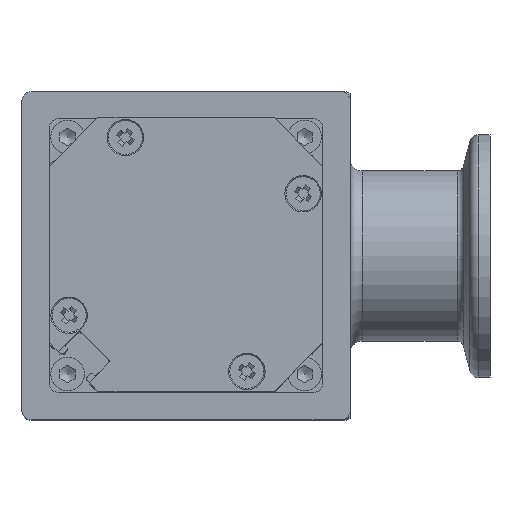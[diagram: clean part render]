
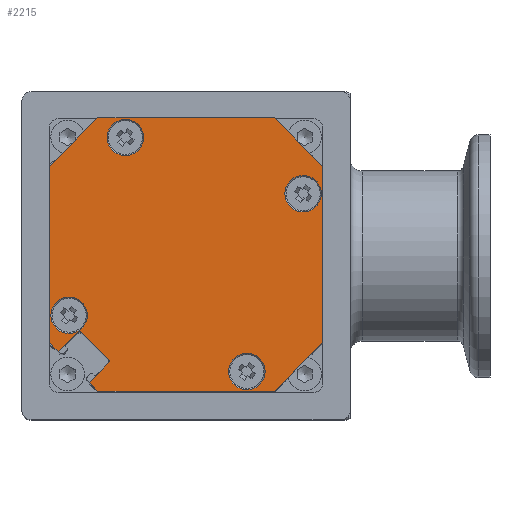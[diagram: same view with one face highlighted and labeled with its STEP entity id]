
A CAD part, top view. The second image highlights one B-rep face of the part: STEP entity #2215.
In plain terms, the highlighted planar face has unit normal (0, 0, 1).
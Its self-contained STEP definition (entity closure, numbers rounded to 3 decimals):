
#1521=PLANE('',#9329);
#2215=ADVANCED_FACE('',(#3889,#3890,#3891,#3892,#3893),#1521,.F.);
#2853=LINE('',#14635,#3361);
#2859=LINE('',#14649,#3367);
#2861=LINE('',#14661,#3369);
#2862=LINE('',#14663,#3370);
#2863=LINE('',#14665,#3371);
#2864=LINE('',#14667,#3372);
#2865=LINE('',#14669,#3373);
#2866=LINE('',#14671,#3374);
#2867=LINE('',#14673,#3375);
#2868=LINE('',#14675,#3376);
#2869=LINE('',#14676,#3377);
#2870=LINE('',#14680,#3378);
#3361=VECTOR('',#11101,1.);
#3367=VECTOR('',#11109,1.);
#3369=VECTOR('',#11121,1.);
#3370=VECTOR('',#11122,1.);
#3371=VECTOR('',#11123,1.);
#3372=VECTOR('',#11124,1.);
#3373=VECTOR('',#11125,1.);
#3374=VECTOR('',#11126,1.);
#3375=VECTOR('',#11127,1.);
#3376=VECTOR('',#11128,1.);
#3377=VECTOR('',#11129,1.);
#3378=VECTOR('',#11132,1.);
#3889=FACE_BOUND('',#4502,.T.);
#3890=FACE_BOUND('',#4503,.T.);
#3891=FACE_BOUND('',#4504,.T.);
#3892=FACE_BOUND('',#4505,.T.);
#3893=FACE_BOUND('',#4506,.T.);
#4502=EDGE_LOOP('',(#6284));
#4503=EDGE_LOOP('',(#6285));
#4504=EDGE_LOOP('',(#6286));
#4505=EDGE_LOOP('',(#6287));
#4506=EDGE_LOOP('',(#6288,#6289,#6290,#6291,#6292,#6293,#6294,#6295,#6296,
#6297,#6298,#6299,#6300,#6301));
#6284=ORIENTED_EDGE('',*,*,#8216,.T.);
#6285=ORIENTED_EDGE('',*,*,#8217,.T.);
#6286=ORIENTED_EDGE('',*,*,#8218,.T.);
#6287=ORIENTED_EDGE('',*,*,#8219,.T.);
#6288=ORIENTED_EDGE('',*,*,#8220,.T.);
#6289=ORIENTED_EDGE('',*,*,#8208,.F.);
#6290=ORIENTED_EDGE('',*,*,#8221,.F.);
#6291=ORIENTED_EDGE('',*,*,#8222,.F.);
#6292=ORIENTED_EDGE('',*,*,#8223,.F.);
#6293=ORIENTED_EDGE('',*,*,#8224,.F.);
#6294=ORIENTED_EDGE('',*,*,#8225,.F.);
#6295=ORIENTED_EDGE('',*,*,#8226,.F.);
#6296=ORIENTED_EDGE('',*,*,#8227,.F.);
#6297=ORIENTED_EDGE('',*,*,#8214,.F.);
#6298=ORIENTED_EDGE('',*,*,#8228,.T.);
#6299=ORIENTED_EDGE('',*,*,#8229,.T.);
#6300=ORIENTED_EDGE('',*,*,#8230,.T.);
#6301=ORIENTED_EDGE('',*,*,#8231,.T.);
#7253=VERTEX_POINT('',#14636);
#7254=VERTEX_POINT('',#14637);
#7259=VERTEX_POINT('',#14648);
#7260=VERTEX_POINT('',#14650);
#7261=VERTEX_POINT('',#14654);
#7262=VERTEX_POINT('',#14656);
#7263=VERTEX_POINT('',#14658);
#7264=VERTEX_POINT('',#14660);
#7265=VERTEX_POINT('',#14662);
#7266=VERTEX_POINT('',#14664);
#7267=VERTEX_POINT('',#14666);
#7268=VERTEX_POINT('',#14668);
#7269=VERTEX_POINT('',#14670);
#7270=VERTEX_POINT('',#14672);
#7271=VERTEX_POINT('',#14674);
#7272=VERTEX_POINT('',#14677);
#7273=VERTEX_POINT('',#14679);
#7274=VERTEX_POINT('',#14681);
#8208=EDGE_CURVE('',#7253,#7254,#2853,.T.);
#8214=EDGE_CURVE('',#7259,#7260,#2859,.T.);
#8216=EDGE_CURVE('',#7261,#7261,#8651,.T.);
#8217=EDGE_CURVE('',#7262,#7262,#8652,.T.);
#8218=EDGE_CURVE('',#7263,#7263,#8653,.T.);
#8219=EDGE_CURVE('',#7264,#7264,#8654,.T.);
#8220=EDGE_CURVE('',#7265,#7254,#2861,.T.);
#8221=EDGE_CURVE('',#7266,#7253,#2862,.T.);
#8222=EDGE_CURVE('',#7267,#7266,#2863,.T.);
#8223=EDGE_CURVE('',#7268,#7267,#2864,.T.);
#8224=EDGE_CURVE('',#7269,#7268,#2865,.T.);
#8225=EDGE_CURVE('',#7270,#7269,#2866,.T.);
#8226=EDGE_CURVE('',#7271,#7270,#2867,.T.);
#8227=EDGE_CURVE('',#7260,#7271,#2868,.T.);
#8228=EDGE_CURVE('',#7259,#7272,#2869,.T.);
#8229=EDGE_CURVE('',#7272,#7273,#8655,.T.);
#8230=EDGE_CURVE('',#7273,#7274,#2870,.T.);
#8231=EDGE_CURVE('',#7274,#7265,#8656,.T.);
#8651=CIRCLE('',#9323,3.);
#8652=CIRCLE('',#9324,3.);
#8653=CIRCLE('',#9325,3.);
#8654=CIRCLE('',#9326,3.);
#8655=CIRCLE('',#9327,0.4);
#8656=CIRCLE('',#9328,0.4);
#9323=AXIS2_PLACEMENT_3D('',#14653,#11113,#11114);
#9324=AXIS2_PLACEMENT_3D('',#14655,#11115,#11116);
#9325=AXIS2_PLACEMENT_3D('',#14657,#11117,#11118);
#9326=AXIS2_PLACEMENT_3D('',#14659,#11119,#11120);
#9327=AXIS2_PLACEMENT_3D('',#14678,#11130,#11131);
#9328=AXIS2_PLACEMENT_3D('',#14682,#11133,#11134);
#9329=AXIS2_PLACEMENT_3D('',#14683,#11135,#11136);
#11101=DIRECTION('',(0.707,-0.707,0.));
#11109=DIRECTION('',(0.707,-0.707,0.));
#11113=DIRECTION('',(0.,0.,-1.));
#11114=DIRECTION('',(-1.,0.,0.));
#11115=DIRECTION('',(0.,0.,-1.));
#11116=DIRECTION('',(-1.,0.,0.));
#11117=DIRECTION('',(0.,0.,-1.));
#11118=DIRECTION('',(-1.,0.,0.));
#11119=DIRECTION('',(0.,0.,-1.));
#11120=DIRECTION('',(-1.,0.,0.));
#11121=DIRECTION('',(0.707,0.707,0.));
#11122=DIRECTION('',(1.,0.,0.));
#11123=DIRECTION('',(0.707,0.707,0.));
#11124=DIRECTION('',(0.,1.,0.));
#11125=DIRECTION('',(-0.707,0.707,0.));
#11126=DIRECTION('',(-1.,0.,0.));
#11127=DIRECTION('',(-0.707,-0.707,0.));
#11128=DIRECTION('',(0.,-1.,0.));
#11129=DIRECTION('',(-0.707,-0.707,0.));
#11130=DIRECTION('',(0.,0.,-1.));
#11131=DIRECTION('',(1.,0.,0.));
#11132=DIRECTION('',(-0.707,0.707,0.));
#11133=DIRECTION('',(0.,0.,-1.));
#11134=DIRECTION('',(0.,1.,0.));
#11135=DIRECTION('',(0.,0.,-1.));
#11136=DIRECTION('',(-1.,0.,0.));
#14635=CARTESIAN_POINT('',(14.5,22.5,3.));
#14636=CARTESIAN_POINT('',(14.5,22.5,3.));
#14637=CARTESIAN_POINT('',(15.972,21.028,3.));
#14648=CARTESIAN_POINT('',(21.028,15.972,3.));
#14649=CARTESIAN_POINT('',(14.5,22.5,3.));
#14650=CARTESIAN_POINT('',(22.5,14.5,3.));
#14653=CARTESIAN_POINT('',(19.25,10.,3.));
#14654=CARTESIAN_POINT('',(16.25,10.,3.));
#14655=CARTESIAN_POINT('',(-10.,19.25,3.));
#14656=CARTESIAN_POINT('',(-13.,19.25,3.));
#14657=CARTESIAN_POINT('',(-19.25,-10.,3.));
#14658=CARTESIAN_POINT('',(-22.25,-10.,3.));
#14659=CARTESIAN_POINT('',(10.,-19.25,3.));
#14660=CARTESIAN_POINT('',(7.,-19.25,3.));
#14661=CARTESIAN_POINT('',(12.781,17.837,3.));
#14662=CARTESIAN_POINT('',(12.781,17.837,3.));
#14663=CARTESIAN_POINT('',(-14.5,22.5,3.));
#14664=CARTESIAN_POINT('',(-14.5,22.5,3.));
#14665=CARTESIAN_POINT('',(-22.5,14.5,3.));
#14666=CARTESIAN_POINT('',(-22.5,14.5,3.));
#14667=CARTESIAN_POINT('',(-22.5,-14.5,3.));
#14668=CARTESIAN_POINT('',(-22.5,-14.5,3.));
#14669=CARTESIAN_POINT('',(-14.5,-22.5,3.));
#14670=CARTESIAN_POINT('',(-14.5,-22.5,3.));
#14671=CARTESIAN_POINT('',(14.5,-22.5,3.));
#14672=CARTESIAN_POINT('',(14.5,-22.5,3.));
#14673=CARTESIAN_POINT('',(22.5,-14.5,3.));
#14674=CARTESIAN_POINT('',(22.5,-14.5,3.));
#14675=CARTESIAN_POINT('',(22.5,14.5,3.));
#14676=CARTESIAN_POINT('',(21.028,15.972,3.));
#14677=CARTESIAN_POINT('',(17.837,12.781,3.));
#14678=CARTESIAN_POINT('',(17.554,13.064,3.));
#14679=CARTESIAN_POINT('',(17.271,12.781,3.));
#14680=CARTESIAN_POINT('',(17.271,12.781,3.));
#14681=CARTESIAN_POINT('',(12.781,17.271,3.));
#14682=CARTESIAN_POINT('',(13.064,17.554,3.));
#14683=CARTESIAN_POINT('',(22.5,-22.5,3.));
